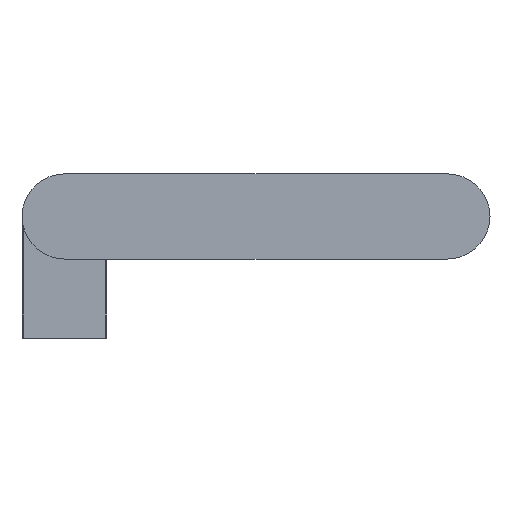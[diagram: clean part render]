
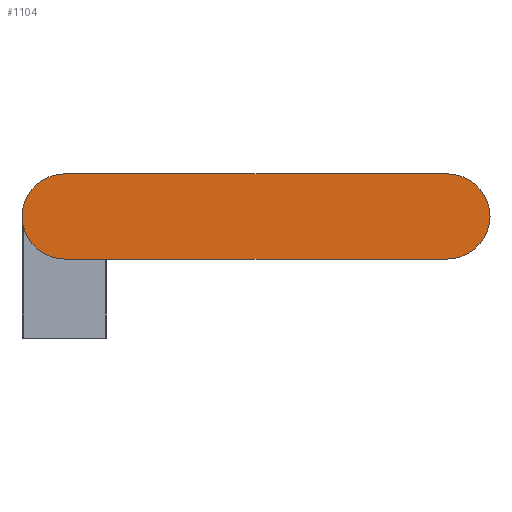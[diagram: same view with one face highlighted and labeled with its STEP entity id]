
A CAD part, left-side view. The second image highlights one B-rep face of the part: STEP entity #1104.
In plain terms, the highlighted planar face has unit normal (-1, 0, 0).
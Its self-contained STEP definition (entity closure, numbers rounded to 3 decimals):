
#286 = DIRECTION ( 'NONE',  ( 0., 0., -1. ) ) ;
#305 = DIRECTION ( 'NONE',  ( 0., -1., 0. ) ) ;
#558 = EDGE_CURVE ( 'NONE', #2111, #4185, #3045, .T. ) ;
#705 = DIRECTION ( 'NONE',  ( 1., 0., 0. ) ) ;
#743 = CARTESIAN_POINT ( 'NONE',  ( -101.496, -81.529, 0.605 ) ) ;
#912 = ORIENTED_EDGE ( 'NONE', *, *, #2470, .F. ) ;
#994 = EDGE_CURVE ( 'NONE', #4878, #2111, #1838, .T. ) ;
#1104 = ADVANCED_FACE ( 'NONE', ( #2556 ), #3043, .F. ) ;
#1464 = DIRECTION ( 'NONE',  ( 0., 0., -1. ) ) ;
#1603 = CARTESIAN_POINT ( 'NONE',  ( -101.496, -81.529, 9.705 ) ) ;
#1838 = CIRCLE ( 'NONE', #2336, 9.1 ) ;
#1870 = CARTESIAN_POINT ( 'NONE',  ( -101.496, 0.271, 0.605 ) ) ;
#2111 = VERTEX_POINT ( 'NONE', #2728 ) ;
#2155 = CARTESIAN_POINT ( 'NONE',  ( -101.496, -81.529, -8.495 ) ) ;
#2274 = ORIENTED_EDGE ( 'NONE', *, *, #2911, .F. ) ;
#2302 = CARTESIAN_POINT ( 'NONE',  ( -101.496, 0.271, -8.495 ) ) ;
#2304 = CIRCLE ( 'NONE', #3543, 9.1 ) ;
#2336 = AXIS2_PLACEMENT_3D ( 'NONE', #1870, #705, #1464 ) ;
#2470 = EDGE_CURVE ( 'NONE', #4797, #4878, #3720, .T. ) ;
#2556 = FACE_OUTER_BOUND ( 'NONE', #3090, .T. ) ;
#2590 = DIRECTION ( 'NONE',  ( 1., 0., 0. ) ) ;
#2712 = AXIS2_PLACEMENT_3D ( 'NONE', #743, #5031, #3075 ) ;
#2728 = CARTESIAN_POINT ( 'NONE',  ( -101.496, 0.271, 9.705 ) ) ;
#2852 = ORIENTED_EDGE ( 'NONE', *, *, #558, .F. ) ;
#2911 = EDGE_CURVE ( 'NONE', #4185, #4797, #2304, .T. ) ;
#3043 = PLANE ( 'NONE',  #2712 ) ;
#3045 = LINE ( 'NONE', #4953, #4828 ) ;
#3075 = DIRECTION ( 'NONE',  ( 0., 0., -1. ) ) ;
#3090 = EDGE_LOOP ( 'NONE', ( #2274, #2852, #4773, #912 ) ) ;
#3543 = AXIS2_PLACEMENT_3D ( 'NONE', #4932, #2590, #286 ) ;
#3720 = LINE ( 'NONE', #2155, #4405 ) ;
#3731 = DIRECTION ( 'NONE',  ( 0., 1., 0. ) ) ;
#4185 = VERTEX_POINT ( 'NONE', #1603 ) ;
#4405 = VECTOR ( 'NONE', #3731, 1000. ) ;
#4773 = ORIENTED_EDGE ( 'NONE', *, *, #994, .F. ) ;
#4797 = VERTEX_POINT ( 'NONE', #4881 ) ;
#4828 = VECTOR ( 'NONE', #305, 1000. ) ;
#4878 = VERTEX_POINT ( 'NONE', #2302 ) ;
#4881 = CARTESIAN_POINT ( 'NONE',  ( -101.496, -81.529, -8.495 ) ) ;
#4932 = CARTESIAN_POINT ( 'NONE',  ( -101.496, -81.529, 0.605 ) ) ;
#4953 = CARTESIAN_POINT ( 'NONE',  ( -101.496, -81.529, 9.705 ) ) ;
#5031 = DIRECTION ( 'NONE',  ( 1., 0., 0. ) ) ;
